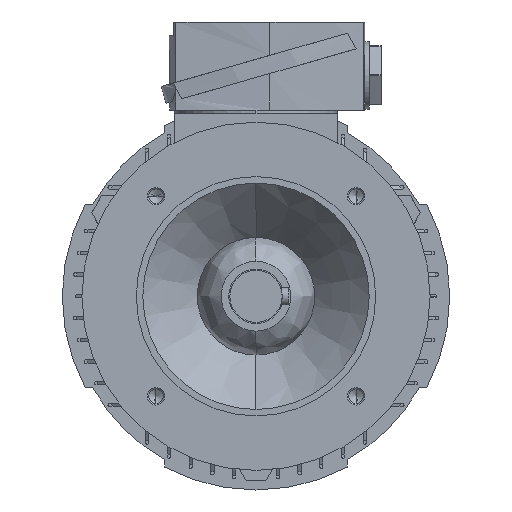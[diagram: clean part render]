
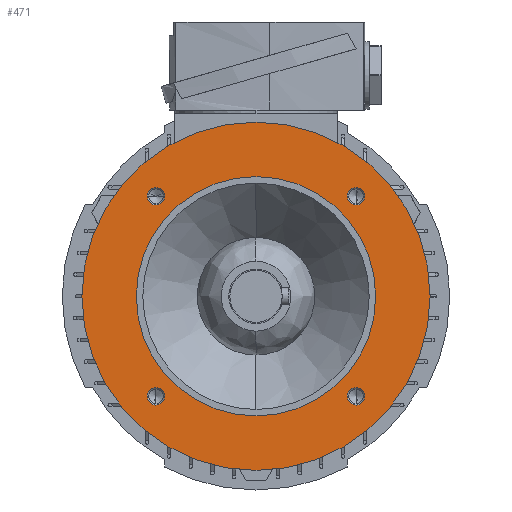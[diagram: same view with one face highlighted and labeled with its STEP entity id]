
A CAD part, left-side view. The second image highlights one B-rep face of the part: STEP entity #471.
In plain terms, the highlighted planar face has unit normal (-1, 0, 0).
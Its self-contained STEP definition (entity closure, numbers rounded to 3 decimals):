
#185 = EDGE_CURVE ( 'NONE', #19200, #19203, #22381, .T. ) ;
#189 = EDGE_CURVE ( 'NONE', #18515, #19166, #22386, .T. ) ;
#193 = EDGE_CURVE ( 'NONE', #18518, #19176, #22392, .T. ) ;
#197 = EDGE_CURVE ( 'NONE', #18609, #19155, #22398, .T. ) ;
#203 = EDGE_CURVE ( 'NONE', #19208, #19195, #22410, .T. ) ;
#212 = EDGE_CURVE ( 'NONE', #19173, #19193, #22419, .T. ) ;
#471 = ADVANCED_FACE ( 'NONE', ( #22473, #22488, #22483, #22487, #22480, #22489 ), #14704, .T. ) ;
#742 = EDGE_CURVE ( 'NONE', #19176, #18518, #13184, .T. ) ;
#767 = EDGE_CURVE ( 'NONE', #19203, #19200, #13228, .T. ) ;
#826 = EDGE_CURVE ( 'NONE', #19166, #18515, #13352, .T. ) ;
#836 = EDGE_CURVE ( 'NONE', #19195, #19208, #13384, .T. ) ;
#874 = EDGE_CURVE ( 'NONE', #19193, #19173, #13487, .T. ) ;
#3862 = EDGE_LOOP ( 'NONE', ( #19537, #19538 ) ) ;
#3863 = EDGE_LOOP ( 'NONE', ( #19531, #19532 ) ) ;
#3864 = EDGE_LOOP ( 'NONE', ( #19529, #19530 ) ) ;
#3865 = EDGE_LOOP ( 'NONE', ( #19527, #19528 ) ) ;
#3866 = EDGE_LOOP ( 'NONE', ( #19535, #19536 ) ) ;
#3867 = EDGE_LOOP ( 'NONE', ( #19533, #19534 ) ) ;
#4588 = CARTESIAN_POINT ( 'NONE',  ( -34.5, -45.962, -45.962 ) ) ;
#4589 = DIRECTION ( 'NONE',  ( 1., 0., 0. ) ) ;
#4590 = DIRECTION ( 'NONE',  ( 0., 0., 1. ) ) ;
#4598 = CARTESIAN_POINT ( 'NONE',  ( -34.5, 45.962, -45.962 ) ) ;
#4599 = DIRECTION ( 'NONE',  ( 1., 0., 0. ) ) ;
#4600 = DIRECTION ( 'NONE',  ( 0., 0., 1. ) ) ;
#4608 = CARTESIAN_POINT ( 'NONE',  ( -34.5, 45.962, 45.962 ) ) ;
#4609 = DIRECTION ( 'NONE',  ( 1., 0., 0. ) ) ;
#4610 = DIRECTION ( 'NONE',  ( 0., 0., 1. ) ) ;
#4618 = CARTESIAN_POINT ( 'NONE',  ( -34.5, -45.962, 45.962 ) ) ;
#4619 = DIRECTION ( 'NONE',  ( 1., 0., 0. ) ) ;
#4620 = DIRECTION ( 'NONE',  ( 0., 0., 1. ) ) ;
#4632 = CARTESIAN_POINT ( 'NONE',  ( -34.5, 0., 0. ) ) ;
#4633 = DIRECTION ( 'NONE',  ( 1., 0., 0. ) ) ;
#4634 = DIRECTION ( 'NONE',  ( 0., 0., 1. ) ) ;
#7600 = CARTESIAN_POINT ( 'NONE',  ( -34.5, 0., 0. ) ) ;
#7601 = DIRECTION ( 'NONE',  ( 1., 0., 0. ) ) ;
#7603 = DIRECTION ( 'NONE',  ( 0., 0., 1. ) ) ;
#7752 = CARTESIAN_POINT ( 'NONE',  ( -34.5, -45.962, 45.962 ) ) ;
#7754 = DIRECTION ( 'NONE',  ( 1., 0., 0. ) ) ;
#7756 = DIRECTION ( 'NONE',  ( 0., 0., 1. ) ) ;
#8718 = AXIS2_PLACEMENT_3D ( 'NONE', #14710, #14705, #14711 ) ;
#9154 = AXIS2_PLACEMENT_3D ( 'NONE', #15252, #15253, #15254 ) ;
#9163 = AXIS2_PLACEMENT_3D ( 'NONE', #15286, #15287, #15288 ) ;
#9201 = AXIS2_PLACEMENT_3D ( 'NONE', #20889, #20890, #20891 ) ;
#9204 = AXIS2_PLACEMENT_3D ( 'NONE', #20910, #20911, #20912 ) ;
#9232 = AXIS2_PLACEMENT_3D ( 'NONE', #7600, #7601, #7603 ) ;
#9697 = CARTESIAN_POINT ( 'NONE',  ( -34.5, 45.962, -41.962 ) ) ;
#9700 = CARTESIAN_POINT ( 'NONE',  ( -34.5, 45.962, 49.962 ) ) ;
#9791 = CARTESIAN_POINT ( 'NONE',  ( -34.5, -45.962, 49.962 ) ) ;
#9970 = CARTESIAN_POINT ( 'NONE',  ( -34.5, -45.962, 41.962 ) ) ;
#9983 = CARTESIAN_POINT ( 'NONE',  ( -34.5, 45.962, -49.962 ) ) ;
#9990 = CARTESIAN_POINT ( 'NONE',  ( -34.5, 0., -80. ) ) ;
#9993 = CARTESIAN_POINT ( 'NONE',  ( -34.5, 45.962, 41.962 ) ) ;
#10010 = CARTESIAN_POINT ( 'NONE',  ( -34.5, 0., 80. ) ) ;
#10012 = CARTESIAN_POINT ( 'NONE',  ( -34.5, 0., 55. ) ) ;
#10017 = CARTESIAN_POINT ( 'NONE',  ( -34.5, -45.962, -41.962 ) ) ;
#10020 = CARTESIAN_POINT ( 'NONE',  ( -34.5, -45.962, -49.962 ) ) ;
#10025 = CARTESIAN_POINT ( 'NONE',  ( -34.5, 0., -55. ) ) ;
#12091 = EDGE_CURVE ( 'NONE', #19155, #18609, #17139, .T. ) ;
#12647 = AXIS2_PLACEMENT_3D ( 'NONE', #4588, #4589, #4590 ) ;
#12649 = AXIS2_PLACEMENT_3D ( 'NONE', #4598, #4599, #4600 ) ;
#12651 = AXIS2_PLACEMENT_3D ( 'NONE', #4608, #4609, #4610 ) ;
#12653 = AXIS2_PLACEMENT_3D ( 'NONE', #4618, #4619, #4620 ) ;
#12656 = AXIS2_PLACEMENT_3D ( 'NONE', #4632, #4633, #4634 ) ;
#12660 = AXIS2_PLACEMENT_3D ( 'NONE', #21460, #21461, #21462 ) ;
#13184 = CIRCLE ( 'NONE', #9154, 4. ) ;
#13228 = CIRCLE ( 'NONE', #9163, 4. ) ;
#13352 = CIRCLE ( 'NONE', #9201, 4. ) ;
#13384 = CIRCLE ( 'NONE', #9204, 55. ) ;
#13487 = CIRCLE ( 'NONE', #9232, 80. ) ;
#14704 = PLANE ( 'NONE',  #8718 ) ;
#14705 = DIRECTION ( 'NONE',  ( -1., 0., 0. ) ) ;
#14710 = CARTESIAN_POINT ( 'NONE',  ( -34.5, 0., 67.5 ) ) ;
#14711 = DIRECTION ( 'NONE',  ( 0., 0., 1. ) ) ;
#15252 = CARTESIAN_POINT ( 'NONE',  ( -34.5, 45.962, 45.962 ) ) ;
#15253 = DIRECTION ( 'NONE',  ( 1., 0., 0. ) ) ;
#15254 = DIRECTION ( 'NONE',  ( 0., 0., 1. ) ) ;
#15286 = CARTESIAN_POINT ( 'NONE',  ( -34.5, -45.962, -45.962 ) ) ;
#15287 = DIRECTION ( 'NONE',  ( 1., 0., 0. ) ) ;
#15288 = DIRECTION ( 'NONE',  ( 0., 0., 1. ) ) ;
#16430 = AXIS2_PLACEMENT_3D ( 'NONE', #7752, #7754, #7756 ) ;
#17139 = CIRCLE ( 'NONE', #16430, 4. ) ;
#18515 = VERTEX_POINT ( 'NONE', #9697 ) ;
#18518 = VERTEX_POINT ( 'NONE', #9700 ) ;
#18609 = VERTEX_POINT ( 'NONE', #9791 ) ;
#19155 = VERTEX_POINT ( 'NONE', #9970 ) ;
#19166 = VERTEX_POINT ( 'NONE', #9983 ) ;
#19173 = VERTEX_POINT ( 'NONE', #9990 ) ;
#19176 = VERTEX_POINT ( 'NONE', #9993 ) ;
#19193 = VERTEX_POINT ( 'NONE', #10010 ) ;
#19195 = VERTEX_POINT ( 'NONE', #10012 ) ;
#19200 = VERTEX_POINT ( 'NONE', #10017 ) ;
#19203 = VERTEX_POINT ( 'NONE', #10020 ) ;
#19208 = VERTEX_POINT ( 'NONE', #10025 ) ;
#19527 = ORIENTED_EDGE ( 'NONE', *, *, #836, .T. ) ;
#19528 = ORIENTED_EDGE ( 'NONE', *, *, #203, .T. ) ;
#19529 = ORIENTED_EDGE ( 'NONE', *, *, #874, .F. ) ;
#19530 = ORIENTED_EDGE ( 'NONE', *, *, #212, .F. ) ;
#19531 = ORIENTED_EDGE ( 'NONE', *, *, #197, .T. ) ;
#19532 = ORIENTED_EDGE ( 'NONE', *, *, #12091, .T. ) ;
#19533 = ORIENTED_EDGE ( 'NONE', *, *, #193, .T. ) ;
#19534 = ORIENTED_EDGE ( 'NONE', *, *, #742, .T. ) ;
#19535 = ORIENTED_EDGE ( 'NONE', *, *, #189, .T. ) ;
#19536 = ORIENTED_EDGE ( 'NONE', *, *, #826, .T. ) ;
#19537 = ORIENTED_EDGE ( 'NONE', *, *, #185, .T. ) ;
#19538 = ORIENTED_EDGE ( 'NONE', *, *, #767, .T. ) ;
#20889 = CARTESIAN_POINT ( 'NONE',  ( -34.5, 45.962, -45.962 ) ) ;
#20890 = DIRECTION ( 'NONE',  ( 1., 0., 0. ) ) ;
#20891 = DIRECTION ( 'NONE',  ( 0., 0., 1. ) ) ;
#20910 = CARTESIAN_POINT ( 'NONE',  ( -34.5, 0., 0. ) ) ;
#20911 = DIRECTION ( 'NONE',  ( 1., 0., 0. ) ) ;
#20912 = DIRECTION ( 'NONE',  ( 0., 0., 1. ) ) ;
#21460 = CARTESIAN_POINT ( 'NONE',  ( -34.5, 0., 0. ) ) ;
#21461 = DIRECTION ( 'NONE',  ( 1., 0., 0. ) ) ;
#21462 = DIRECTION ( 'NONE',  ( 0., 0., 1. ) ) ;
#22381 = CIRCLE ( 'NONE', #12647, 4. ) ;
#22386 = CIRCLE ( 'NONE', #12649, 4. ) ;
#22392 = CIRCLE ( 'NONE', #12651, 4. ) ;
#22398 = CIRCLE ( 'NONE', #12653, 4. ) ;
#22410 = CIRCLE ( 'NONE', #12656, 55. ) ;
#22419 = CIRCLE ( 'NONE', #12660, 80. ) ;
#22473 = FACE_BOUND ( 'NONE', #3865, .T. ) ;
#22480 = FACE_BOUND ( 'NONE', #3866, .T. ) ;
#22483 = FACE_BOUND ( 'NONE', #3863, .T. ) ;
#22487 = FACE_BOUND ( 'NONE', #3867, .T. ) ;
#22488 = FACE_OUTER_BOUND ( 'NONE', #3864, .T. ) ;
#22489 = FACE_BOUND ( 'NONE', #3862, .T. ) ;
